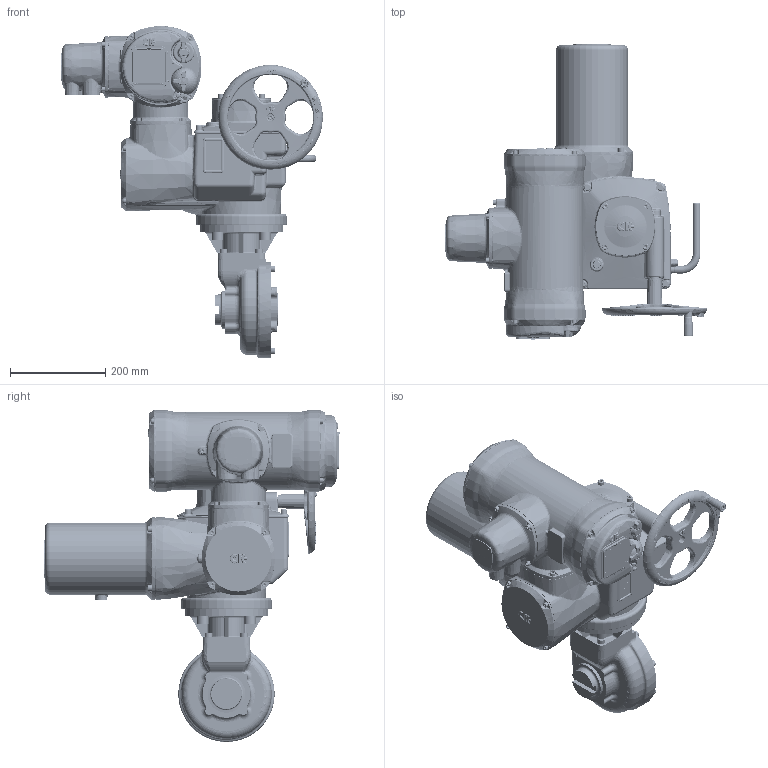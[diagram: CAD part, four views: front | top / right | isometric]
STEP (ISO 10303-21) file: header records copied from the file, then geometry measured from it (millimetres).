
FILE_DESCRIPTION(/* description */ ('Unknown','CAx-IF Rec.Pracs.---Representation and Presentation of Product Manufacturing Information (PMI)---4.0---2014-10-13','CAx-IF Rec.Pracs.---3D Tessellated Geometry---0.4---2014-09-14','2;1'),/* implementation_level */ '2;1');
FILE_NAME(/* name */ 'A6B4N0BS00X-1',/* time_stamp */ '2018-01-24T11:51:19+05:00',/* author */ ('Unknown'),/* organization */ ('Unknown'),/* preprocessor_version */ 'ST-DEVELOPER v16.7',/* originating_system */ 'DEX',/* authorisation */ $);
FILE_SCHEMA (('AP242_MANAGED_MODEL_BASED_3D_ENGINEERING_MIM_LF { 1 0 10303 442 20130219 1 4 }'));
Length unit declared in the file: millimetre
Products named in the file (7): A6B4N0BS00X-1; CK3-01; IB4-F14-F10; CK3-04 - NRS; CK3-05; CK0-06; CK0-20 Terminal Cover
Assembly tree (6 placements, depth 2):
  A6B4N0BS00X-1
    CK3-01
    IB4-F14-F10
    CK3-04 - NRS
    CK3-05
    CK0-06
    CK0-20 Terminal Cover
Bounding box: 548.57 x 621.7 x 695.45 mm (x, y, z)
Volume: 31443354.4 mm3; surface area: 1452359.2 mm2
Topology: 8 solids, 64 shells, 13479 faces, 32898 edges, 19715 vertices
Faces by surface type: plane 4819, bspline 3627, cylinder 3079, torus 972, cone 650, sphere 332
Full cylindrical faces by diameter (mm): 0.6 x2, 1.152 x1, 3 x2, 3.2 x1, 4.2 x6, 4.4 x1, 4.5 x5, 4.917 x28, 5.5 x4, 6 x11, 6.45 x1, 6.47 x1, 6.5 x8, 6.6 x4, 6.647 x12, 7 x5, 8 x13, 8.2 x1, 8.5 x12, 10 x34, 10.22 x4, 10.5 x8, 11 x1, 11.92 x1, 12 x1, 13 x18, 13.25 x4, 13.5 x9, 13.835 x4, 14 x1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
Entity records: 585738 total; most frequent: CARTESIAN_POINT 215510, ORIENTED_EDGE 62920, DIRECTION 46281, EDGE_CURVE 31460, VERTEX_POINT 19410, AXIS2_PLACEMENT_3D 17392, FACE_BOUND 14908, EDGE_LOOP 14843
